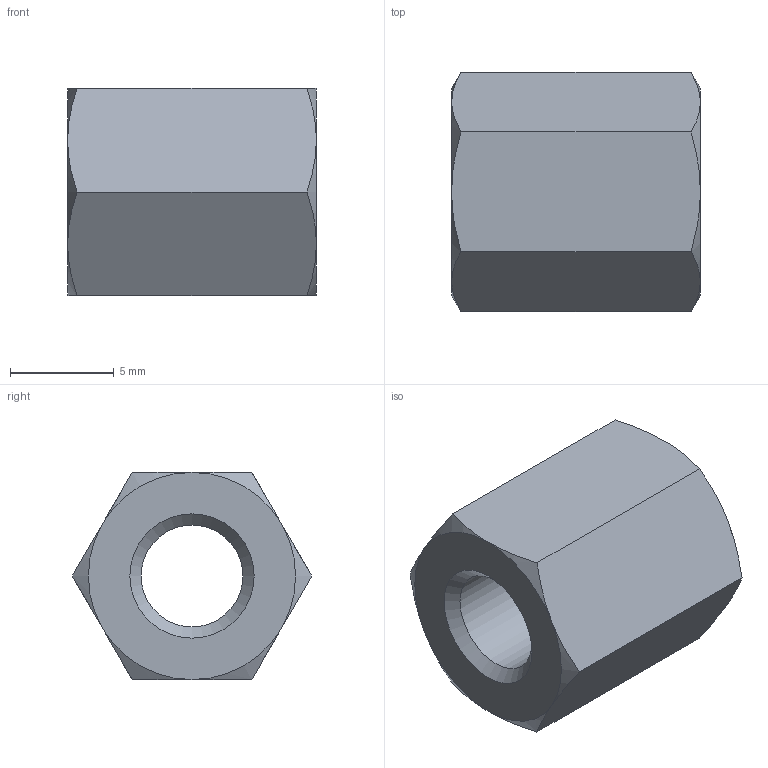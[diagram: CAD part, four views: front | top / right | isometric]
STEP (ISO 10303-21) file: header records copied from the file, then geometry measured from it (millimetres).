
FILE_DESCRIPTION( ( 'STEP AP203' ), '1' );
FILE_NAME( 'C:/Temp/Ganter_Step_05_03_2020/data/3_2/gn6220/gn6220_st/Spacer GN 6220-ST-M6-12-A.stp', '2020-03-13T05:42:28', ( 'License CC BY-ND 4.0' ), ( 'CADENAS' ), ' ', 'PARTsolutions', ' ' );
FILE_SCHEMA( ( 'CONFIG_CONTROL_DESIGN' ) );
Length unit declared in the file: millimetre
Products named in the file (1): _Spacer GN 6220-ST-M6-12-A
Bounding box: 12 x 11.55 x 10 mm (x, y, z)
Volume: 804.3 mm3; surface area: 719.1 mm2
Topology: 1 solids, 1 shells, 23 faces, 49 edges, 28 vertices
Faces by surface type: cone 14, plane 8, cylinder 1
Full cylindrical faces by diameter (mm): 4.917 x1
Entity records: 712 total; most frequent: CARTESIAN_POINT 218, ORIENTED_EDGE 92, DIRECTION 86, EDGE_CURVE 46, AXIS2_PLACEMENT_3D 40, EDGE_LOOP 28, VERTEX_POINT 28, FACE_OUTER_BOUND 24
